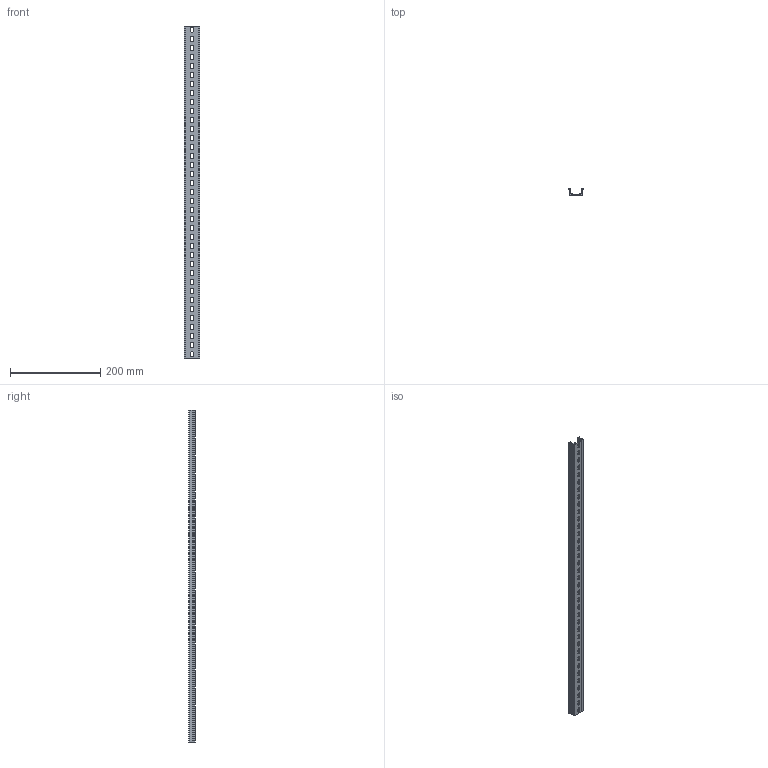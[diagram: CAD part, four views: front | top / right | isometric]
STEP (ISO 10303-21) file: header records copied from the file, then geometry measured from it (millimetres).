
FILE_DESCRIPTION(/* description */ (''),/* implementation_level */ '2;1');
FILE_NAME(/* name */ '22649-(TKB KD-37)HP 3D.stp',/* time_stamp */ '2024-12-05T14:21:02+09:00',/* author */ ('usercadg104'),/* organization */ (''),/* preprocessor_version */ 'ST-DEVELOPER v19.2',/* originating_system */ 'Autodesk Inventor 2023',/* authorisation */ '');
FILE_SCHEMA (('CONFIG_CONTROL_DESIGN'));
Length unit declared in the file: millimetre
Products named in the file (1): TKB KD-3(林)
Bounding box: 35 x 15 x 737 mm (x, y, z)
Volume: 86226.9 mm3; surface area: 99585.4 mm2
Topology: 1 solids, 1 shells, 188 faces, 558 edges, 372 vertices
Faces by surface type: plane 110, cylinder 78
Entity records: 6509 total; most frequent: CARTESIAN_POINT 1119, ORIENTED_EDGE 1116, DIRECTION 1092, EDGE_CURVE 558, LINE 402, VECTOR 402, VERTEX_POINT 372, AXIS2_PLACEMENT_3D 345
